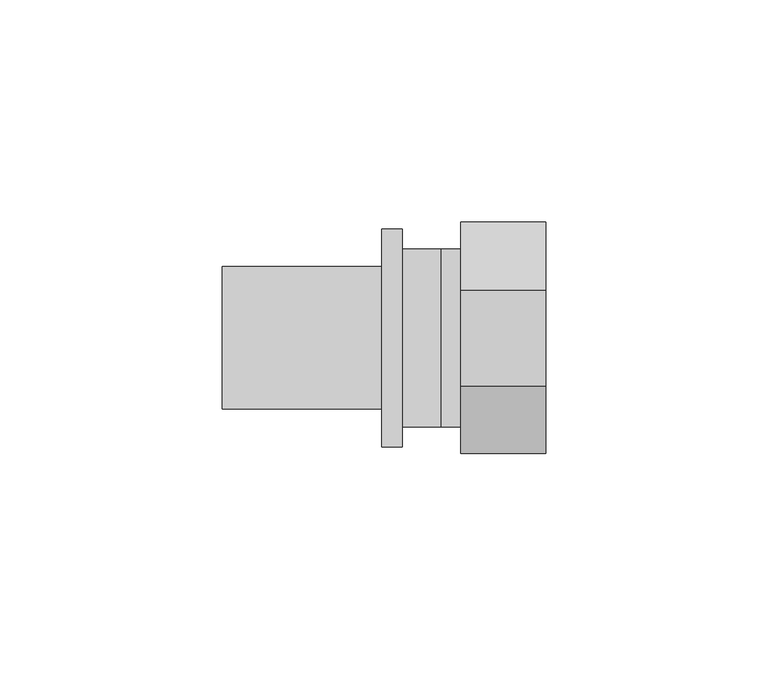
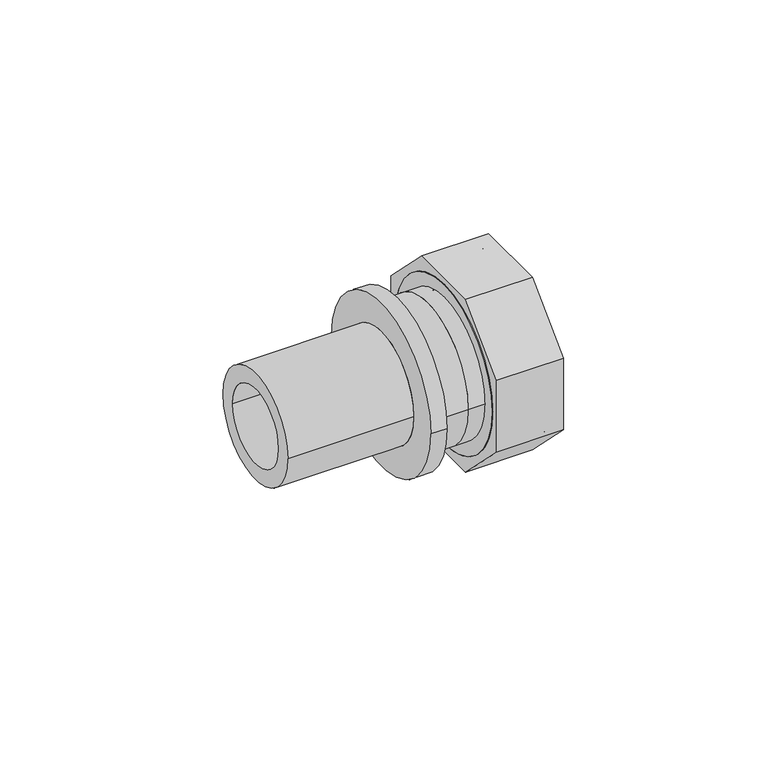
"""IFC4 building model written with IfcOpenShell, lengths in millimetres: pipe fitting geometry, REHAU_RAUTITAN_Adaptor_RX+_union nut : REHAU_RAUTITAN_Adaptor_RX+_union nut."""

from ifc_helpers import new_model, si_unit, point, frame, origin, origin_2d, place, context, project, spatial, polyline, circle_curve, trimmed, segment, composite_curve, outline, extrude, source, transform, mapped, element, save
from ifc_brep_helpers import plane_surface, cylinder_surface, revolved_surface, advanced_brep


def pipe_fitting_021c3694(model_context):
    return source(origin(), model_context, "Body", "SolidModel", [
        advanced_brep(
        [(0.0, 20.0, 0.0), (0.0, -20.0, 0.0), (-8.6, -20.0, 0.0), (-8.6, 20.0, 0.0), (-49.0, 11.25, 0.0), (-49.0, -11.25, 0.0), (0.0, -11.25, 0.0), (0.0, 11.25, 0.0), (-13.2, 16.0, 0.0), (-13.2, -16.0, 0.0), (-49.0, -16.0, 0.0), (-49.0, 16.0, 0.0), (-8.6, 24.5, 0.0), (-8.6, -24.5, 0.0), (-13.2, -24.5, 0.0), (-13.2, 24.5, 0.0)],
        [
            (0, 1, circle_curve(frame((0.0, 0.0, 0.0), z_axis=(-1.0, 0.0, 0.0), x_axis=(0.0, -1.0, 0.0)), 20.0)),
            (1, 2),
            (2, 3, circle_curve(frame((-8.6, 0.0, 0.0), z_axis=(1.0, 0.0, 0.0), x_axis=(0.0, -1.0, 0.0)), 20.0)),
            (3, 0),
            (4, 5, circle_curve(frame((-49.0, 0.0, 0.0), z_axis=(-1.0, 0.0, 0.0), x_axis=(0.0, -1.0, 0.0)), 11.25)),
            (5, 6),
            (6, 7, circle_curve(frame((0.0, 0.0, 0.0), z_axis=(1.0, 0.0, 0.0), x_axis=(0.0, -1.0, 0.0)), 11.25)),
            (7, 4),
            (8, 9, circle_curve(frame((-13.2, 0.0, 0.0), z_axis=(-1.0, 0.0, 0.0), x_axis=(0.0, -1.0, 0.0)), 16.0)),
            (9, 10),
            (10, 11, circle_curve(frame((-49.0, 0.0, 0.0), z_axis=(1.0, 0.0, 0.0), x_axis=(0.0, -1.0, 0.0)), 16.0)),
            (11, 8),
            (12, 13, circle_curve(frame((-8.6, 0.0, 0.0), z_axis=(-1.0, 0.0, 0.0), x_axis=(0.0, -1.0, 0.0)), 24.5)),
            (13, 14),
            (14, 15, circle_curve(frame((-13.2, 0.0, 0.0), z_axis=(1.0, 0.0, 0.0), x_axis=(0.0, -1.0, 0.0)), 24.5)),
            (15, 12),
            (1, 0, circle_curve(frame((0.0, 0.0, 0.0), z_axis=(-1.0, 0.0, 0.0), x_axis=(0.0, 1.0, 0.0)), 20.0)),
            (3, 2, circle_curve(frame((-8.6, 0.0, 0.0), z_axis=(1.0, 0.0, 0.0), x_axis=(0.0, 1.0, 0.0)), 20.0)),
            (6, 7, circle_curve(frame((0.0, 0.0, 0.0), z_axis=(-1.0, 0.0, 0.0), x_axis=(0.0, 1.0, 0.0)), 11.25)),
            (5, 4, circle_curve(frame((-49.0, 0.0, 0.0), z_axis=(-1.0, 0.0, 0.0), x_axis=(0.0, 1.0, 0.0)), 11.25)),
            (10, 11, circle_curve(frame((-49.0, 0.0, 0.0), z_axis=(-1.0, 0.0, 0.0), x_axis=(0.0, 1.0, 0.0)), 16.0)),
            (9, 8, circle_curve(frame((-13.2, 0.0, 0.0), z_axis=(-1.0, 0.0, 0.0), x_axis=(0.0, 1.0, 0.0)), 16.0)),
            (14, 15, circle_curve(frame((-13.2, 0.0, 0.0), z_axis=(-1.0, 0.0, 0.0), x_axis=(0.0, 1.0, 0.0)), 24.5)),
            (13, 12, circle_curve(frame((-8.6, 0.0, 0.0), z_axis=(-1.0, 0.0, 0.0), x_axis=(0.0, 1.0, 0.0)), 24.5)),
        ],
        [
            cylinder_surface(frame((0.0, 0.0, 0.0), z_axis=(1.0, 0.0, 0.0), x_axis=(0.0, -1.0, 0.0)), 20.0),
            revolved_surface(polyline([(0.0, -11.25, 0.0), (-49.0, -11.25, 0.0)]), (0.0, 0.0, 0.0), (1.0, 0.0, 0.0)),
            cylinder_surface(frame((0.0, 0.0, 0.0), z_axis=(1.0, 0.0, 0.0), x_axis=(0.0, -1.0, 0.0)), 16.0),
            cylinder_surface(frame((0.0, 0.0, 0.0), z_axis=(1.0, 0.0, 0.0), x_axis=(0.0, -1.0, 0.0)), 24.5),
            cylinder_surface(frame((0.0, 0.0, 0.0), z_axis=(1.0, 0.0, 0.0), x_axis=(0.0, 1.0, 0.0)), 20.0),
            plane_surface(frame((0.0, 0.0, 0.0), z_axis=(1.0, 0.0, 0.0), x_axis=(0.0, 1.0, 0.0))),
            revolved_surface(polyline([(0.0, 11.25, 0.0), (-49.0, 11.25, 0.0)]), (0.0, 0.0, 0.0), (1.0, 0.0, 0.0)),
            plane_surface(frame((-49.0, 0.0, 0.0), z_axis=(-1.0, 0.0, 0.0), x_axis=(0.0, 1.0, 0.0))),
            cylinder_surface(frame((0.0, 0.0, 0.0), z_axis=(1.0, 0.0, 0.0), x_axis=(0.0, 1.0, 0.0)), 16.0),
            plane_surface(frame((-13.2, 0.0, 0.0), z_axis=(-1.0, 0.0, 0.0), x_axis=(0.0, 1.0, 0.0))),
            cylinder_surface(frame((0.0, 0.0, 0.0), z_axis=(1.0, 0.0, 0.0), x_axis=(0.0, 1.0, 0.0)), 24.5),
            plane_surface(frame((-8.6, 0.0, 0.0), z_axis=(1.0, 0.0, 0.0), x_axis=(0.0, 1.0, 0.0))),
        ],
        [
            (0, [[1, 2, 3, 4]]),
            (1, [[5, 6, 7, 8]]),
            (2, [[9, 10, 11, 12]]),
            (3, [[13, 14, 15, 16]]),
            (4, [[17, -4, 18, -2]]),
            (5, [[-17, -1], [19, -7]]),
            (6, [[20, -8, -19, -6]]),
            (7, [[21, -11], [-20, -5]]),
            (8, [[22, -12, -21, -10]]),
            (9, [[23, -15], [-22, -9]]),
            (10, [[24, -16, -23, -14]]),
            (11, [[-24, -13], [-18, -3]]),
        ],
    ),
        advanced_brep(
        [(7.6, 20.0, 0.0), (7.6, -20.0, 0.0), (0.0, -20.0, 0.0), (0.0, 20.0, 0.0), (11.0, 21.0, 0.0), (11.0, -21.0, 0.0), (7.6, -21.0, 0.0), (7.6, 21.0, 0.0), (1.4730817, 10.75, 0.0), (1.4730817, -10.75, 0.0), (11.0, -10.75, 0.0), (11.0, 10.75, 0.0), (0.0, 8.5764556, 0.0), (0.0, -8.5764556, 0.0), (1.4730817, -8.5764556, 0.0), (1.4730817, 8.5764556, 0.0)],
        [
            (0, 1, circle_curve(frame((7.6, 0.0, 0.0), z_axis=(-1.0, 0.0, 0.0), x_axis=(0.0, -1.0, 0.0)), 20.0)),
            (1, 2),
            (2, 3, circle_curve(frame((0.0, 0.0, 0.0), z_axis=(1.0, 0.0, 0.0), x_axis=(0.0, -1.0, 0.0)), 20.0)),
            (3, 0),
            (4, 5, circle_curve(frame((11.0, 0.0, 0.0), z_axis=(-1.0, 0.0, 0.0), x_axis=(0.0, -1.0, 0.0)), 21.0)),
            (5, 6),
            (6, 7, circle_curve(frame((7.6, 0.0, 0.0), z_axis=(1.0, 0.0, 0.0), x_axis=(0.0, -1.0, 0.0)), 21.0)),
            (7, 4),
            (8, 9, circle_curve(frame((1.4730817, 0.0, 0.0), z_axis=(-1.0, 0.0, 0.0), x_axis=(0.0, -1.0, 0.0)), 10.75)),
            (9, 10),
            (10, 11, circle_curve(frame((11.0, 0.0, 0.0), z_axis=(1.0, 0.0, 0.0), x_axis=(0.0, -1.0, 0.0)), 10.75)),
            (11, 8),
            (2, 3, circle_curve(frame((0.0, 0.0, 0.0), z_axis=(-1.0, 0.0, 0.0), x_axis=(0.0, 1.0, 0.0)), 20.0)),
            (12, 13, circle_curve(frame((0.0, 0.0, 0.0), z_axis=(1.0, 0.0, 0.0), x_axis=(0.0, 1.0, 0.0)), 8.5764556)),
            (13, 12, circle_curve(frame((0.0, 0.0, 0.0), z_axis=(1.0, 0.0, 0.0), x_axis=(0.0, -1.0, 0.0)), 8.5764556)),
            (1, 0, circle_curve(frame((7.6, 0.0, 0.0), z_axis=(-1.0, 0.0, 0.0), x_axis=(0.0, 1.0, 0.0)), 20.0)),
            (6, 7, circle_curve(frame((7.6, 0.0, 0.0), z_axis=(-1.0, 0.0, 0.0), x_axis=(0.0, 1.0, 0.0)), 21.0)),
            (5, 4, circle_curve(frame((11.0, 0.0, 0.0), z_axis=(-1.0, 0.0, 0.0), x_axis=(0.0, 1.0, 0.0)), 21.0)),
            (10, 11, circle_curve(frame((11.0, 0.0, 0.0), z_axis=(-1.0, 0.0, 0.0), x_axis=(0.0, 1.0, 0.0)), 10.75)),
            (9, 8, circle_curve(frame((1.4730817, 0.0, 0.0), z_axis=(-1.0, 0.0, 0.0), x_axis=(0.0, 1.0, 0.0)), 10.75)),
            (13, 14),
            (14, 15, circle_curve(frame((1.4730817, 0.0, 0.0), z_axis=(1.0, 0.0, 0.0), x_axis=(0.0, -1.0, 0.0)), 8.5764556)),
            (15, 12),
            (14, 15, circle_curve(frame((1.4730817, 0.0, 0.0), z_axis=(-1.0, 0.0, 0.0), x_axis=(0.0, 1.0, 0.0)), 8.5764556)),
        ],
        [
            cylinder_surface(frame((0.0, 0.0, 0.0), z_axis=(1.0, 0.0, 0.0), x_axis=(0.0, -1.0, 0.0)), 20.0),
            cylinder_surface(frame((0.0, 0.0, 0.0), z_axis=(1.0, 0.0, 0.0), x_axis=(0.0, -1.0, 0.0)), 21.0),
            revolved_surface(polyline([(11.0, -10.75, 0.0), (1.4730817, -10.75, 0.0)]), (0.0, 0.0, 0.0), (1.0, 0.0, 0.0)),
            plane_surface(frame((0.0, 0.0, 0.0), z_axis=(-1.0, 0.0, 0.0), x_axis=(0.0, 1.0, 0.0))),
            cylinder_surface(frame((0.0, 0.0, 0.0), z_axis=(1.0, 0.0, 0.0), x_axis=(0.0, 1.0, 0.0)), 20.0),
            plane_surface(frame((7.6, 0.0, 0.0), z_axis=(-1.0, 0.0, 0.0), x_axis=(0.0, 1.0, 0.0))),
            cylinder_surface(frame((0.0, 0.0, 0.0), z_axis=(1.0, 0.0, 0.0), x_axis=(0.0, 1.0, 0.0)), 21.0),
            plane_surface(frame((11.0, 0.0, 0.0), z_axis=(1.0, 0.0, 0.0), x_axis=(0.0, 1.0, 0.0))),
            revolved_surface(polyline([(11.0, 10.75, 0.0), (1.4730817, 10.75, 0.0)]), (0.0, 0.0, 0.0), (1.0, 0.0, 0.0)),
            revolved_surface(polyline([(1.4730817, -8.5764556, 0.0), (0.0, -8.5764556, 0.0)]), (0.0, 0.0, 0.0), (1.0, 0.0, 0.0)),
            plane_surface(frame((1.4730817, 0.0, 0.0), z_axis=(1.0, 0.0, 0.0), x_axis=(0.0, 1.0, 0.0))),
            revolved_surface(polyline([(1.4730817, 8.5764556, 0.0), (0.0, 8.5764556, 0.0)]), (0.0, 0.0, 0.0), (1.0, 0.0, 0.0)),
        ],
        [
            (0, [[1, 2, 3, 4]]),
            (1, [[5, 6, 7, 8]]),
            (2, [[9, 10, 11, 12]]),
            (3, [[13, -3], [14, 15]]),
            (4, [[16, -4, -13, -2]]),
            (5, [[17, -7], [-16, -1]]),
            (6, [[18, -8, -17, -6]]),
            (7, [[-18, -5], [19, -11]]),
            (8, [[20, -12, -19, -10]]),
            (9, [[-15, 21, 22, 23]]),
            (10, [[-20, -9], [24, -22]]),
            (11, [[-14, -23, -24, -21]]),
        ],
    ),
        advanced_brep(
        [(23.6, 23.9, 0.0), (23.6, -23.9, 0.0), (4.6, -23.9, 0.0), (4.6, 23.9, 0.0), (7.6, 21.0, 0.0), (7.6, -21.0, 0.0), (23.6, -21.0, 0.0), (23.6, 21.0, 0.0), (4.6, 18.0, 0.0), (4.6, -18.0, 0.0), (7.6, -18.0, 0.0), (7.6, 18.0, 0.0)],
        [
            (0, 1, circle_curve(frame((23.6, 0.0, 0.0), z_axis=(-1.0, 0.0, 0.0), x_axis=(0.0, -1.0, 0.0)), 23.9)),
            (1, 2),
            (2, 3, circle_curve(frame((4.6, 0.0, 0.0), z_axis=(1.0, 0.0, 0.0), x_axis=(0.0, -1.0, 0.0)), 23.9)),
            (3, 0),
            (4, 5, circle_curve(frame((7.6, 0.0, 0.0), z_axis=(-1.0, 0.0, 0.0), x_axis=(0.0, -1.0, 0.0)), 21.0)),
            (5, 6),
            (6, 7, circle_curve(frame((23.6, 0.0, 0.0), z_axis=(1.0, 0.0, 0.0), x_axis=(0.0, -1.0, 0.0)), 21.0)),
            (7, 4),
            (8, 9, circle_curve(frame((4.6, 0.0, 0.0), z_axis=(-1.0, 0.0, 0.0), x_axis=(0.0, -1.0, 0.0)), 18.0)),
            (9, 10),
            (10, 11, circle_curve(frame((7.6, 0.0, 0.0), z_axis=(1.0, 0.0, 0.0), x_axis=(0.0, -1.0, 0.0)), 18.0)),
            (11, 8),
            (1, 0, circle_curve(frame((23.6, 0.0, 0.0), z_axis=(-1.0, 0.0, 0.0), x_axis=(0.0, 1.0, 0.0)), 23.9)),
            (3, 2, circle_curve(frame((4.6, 0.0, 0.0), z_axis=(1.0, 0.0, 0.0), x_axis=(0.0, 1.0, 0.0)), 23.9)),
            (6, 7, circle_curve(frame((23.6, 0.0, 0.0), z_axis=(-1.0, 0.0, 0.0), x_axis=(0.0, 1.0, 0.0)), 21.0)),
            (5, 4, circle_curve(frame((7.6, 0.0, 0.0), z_axis=(-1.0, 0.0, 0.0), x_axis=(0.0, 1.0, 0.0)), 21.0)),
            (10, 11, circle_curve(frame((7.6, 0.0, 0.0), z_axis=(-1.0, 0.0, 0.0), x_axis=(0.0, 1.0, 0.0)), 18.0)),
            (9, 8, circle_curve(frame((4.6, 0.0, 0.0), z_axis=(-1.0, 0.0, 0.0), x_axis=(0.0, 1.0, 0.0)), 18.0)),
        ],
        [
            cylinder_surface(frame((0.0, 0.0, 0.0), z_axis=(1.0, 0.0, 0.0), x_axis=(0.0, -1.0, 0.0)), 23.9),
            revolved_surface(polyline([(23.6, -21.0, 0.0), (7.6, -21.0, 0.0)]), (0.0, 0.0, 0.0), (1.0, 0.0, 0.0)),
            revolved_surface(polyline([(7.6, -18.0, 0.0), (4.6, -18.0, 0.0)]), (0.0, 0.0, 0.0), (1.0, 0.0, 0.0)),
            cylinder_surface(frame((0.0, 0.0, 0.0), z_axis=(1.0, 0.0, 0.0), x_axis=(0.0, 1.0, 0.0)), 23.9),
            plane_surface(frame((23.6, 0.0, 0.0), z_axis=(1.0, 0.0, 0.0), x_axis=(0.0, 1.0, 0.0))),
            revolved_surface(polyline([(23.6, 21.0, 0.0), (7.6, 21.0, 0.0)]), (0.0, 0.0, 0.0), (1.0, 0.0, 0.0)),
            plane_surface(frame((7.6, 0.0, 0.0), z_axis=(1.0, 0.0, 0.0), x_axis=(0.0, 1.0, 0.0))),
            revolved_surface(polyline([(7.6, 18.0, 0.0), (4.6, 18.0, 0.0)]), (0.0, 0.0, 0.0), (1.0, 0.0, 0.0)),
            plane_surface(frame((4.6, 0.0, 0.0), z_axis=(-1.0, 0.0, 0.0), x_axis=(0.0, 1.0, 0.0))),
        ],
        [
            (0, [[1, 2, 3, 4]]),
            (1, [[5, 6, 7, 8]]),
            (2, [[9, 10, 11, 12]]),
            (3, [[13, -4, 14, -2]]),
            (4, [[-13, -1], [15, -7]]),
            (5, [[16, -8, -15, -6]]),
            (6, [[-16, -5], [17, -11]]),
            (7, [[18, -12, -17, -10]]),
            (8, [[-14, -3], [-18, -9]]),
        ],
    ),
        extrude(outline(polyline([(-10.7695526, -26.0), (-26.0, -10.7695526), (-26.0, 10.7695526), (-10.7695526, 26.0), (10.7695526, 26.0), (26.0, 10.7695526), (26.0, -10.7695526), (10.7695526, -26.0), (-10.7695526, -26.0)]), holes=[composite_curve([segment(trimmed(circle_curve(origin_2d(), 23.9), [point((-23.9, 0.0))], [point((23.9, 0.0))], True, "CARTESIAN"), True, "CONTINUOUS"), segment(trimmed(circle_curve(origin_2d(), 23.9), [point((23.9, 0.0))], [point((-23.9, 0.0))], True, "CARTESIAN"), True, "CONTINUOUS")], self_intersect=False)]), frame((4.6, 0.0, 0.0), z_axis=(1.0, 0.0, 0.0), x_axis=(0.0, 1.0, 0.0)), (0.0, 0.0, 1.0), 19.0),
    ])


if __name__ == "__main__":
    model = new_model("IFC4")
    model_context = context("Model", 3, world=origin())
    ifc_project = project(units=[si_unit("LENGTHUNIT", "METRE", prefix="MILLI")], contexts=[model_context])
    site = spatial("IfcSite", under=ifc_project)
    building = spatial("IfcBuilding", under=site)
    placement = place(None, origin())
    pipe_fitting_shape = pipe_fitting_021c3694(model_context)
    element("IfcPipeFitting", 1, ObjectType="REHAU_RAUTITAN_Adaptor_RX+_union nut : REHAU_RAUTITAN_Adaptor_RX+_union nut", at=placement, inside=building, context=model_context, shape_type="MappedRepresentation", body=[
        mapped(pipe_fitting_shape, transform((0.0, 0.0, 0.0), x_axis=(1.0, 0.0, 0.0), y_axis=(0.0, 1.0, 0.0), z_axis=(0.0, 0.0, 1.0))),
    ])
    save(model, "model.ifc")
